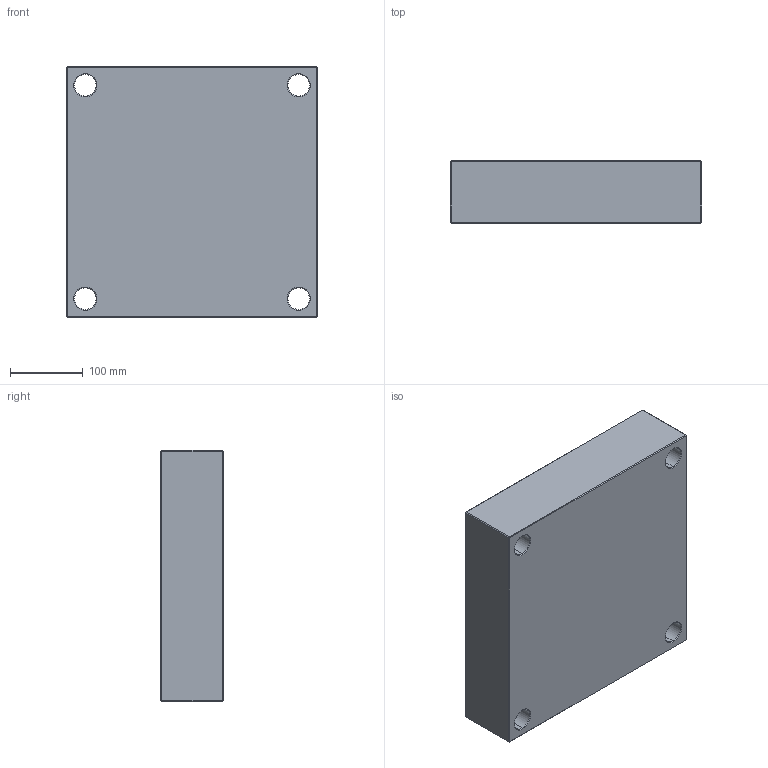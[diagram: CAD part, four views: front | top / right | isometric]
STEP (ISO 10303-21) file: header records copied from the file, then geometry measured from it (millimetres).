
FILE_DESCRIPTION (( 'STEP AP214' ), '1' );
FILE_NAME ('PC-346x346x86.STEP', '2020-04-21T16:49:08', ( 'August' ), ( '' ), 'SwSTEP 2.0', 'SolidWorks 2018', '' );
FILE_SCHEMA (( 'AUTOMOTIVE_DESIGN' ));
Length unit declared in the file: millimetre
Products named in the file (1): PC-346x346x86
Bounding box: 346 x 86 x 346 mm (x, y, z)
Volume: 10031668.4 mm3; surface area: 386932 mm2
Topology: 1 solids, 1 shells, 82 faces, 168 edges, 96 vertices
Faces by surface type: plane 34, cone 24, cylinder 24
Entity records: 2170 total; most frequent: DIRECTION 406, CARTESIAN_POINT 347, ORIENTED_EDGE 336, EDGE_CURVE 168, AXIS2_PLACEMENT_3D 155, EDGE_LOOP 98, LINE 96, VECTOR 96
